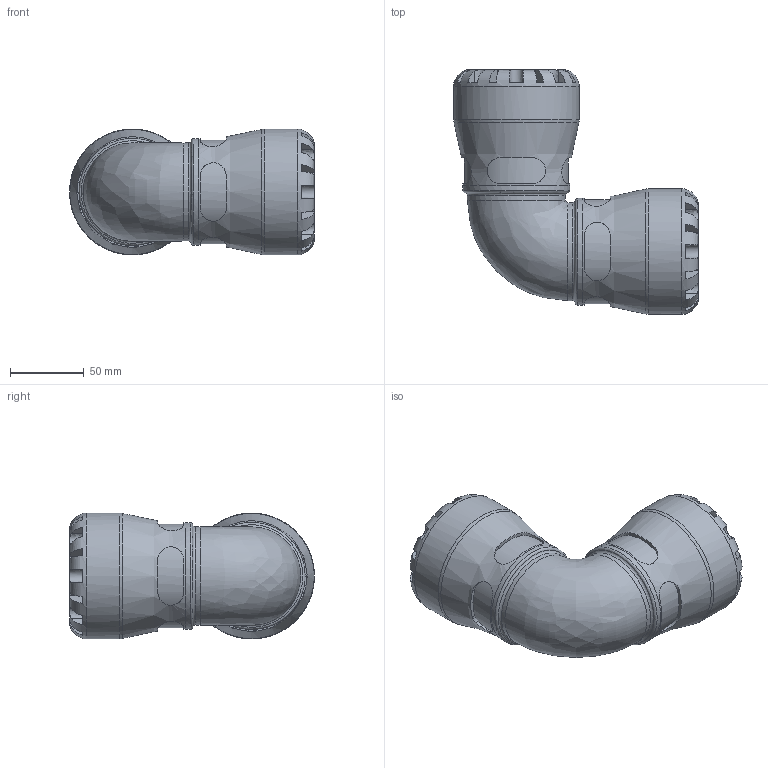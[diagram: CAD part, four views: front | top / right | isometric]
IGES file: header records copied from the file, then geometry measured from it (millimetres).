
Global section: file name: 150500050; native system: Autodesk Inventor 2019; preprocessor: unknown; author: KIM; date: 20231017.193511; units: millimetre
Bounding box: 165.5 x 165.5 x 85 mm (x, y, z)
Volume: 614224.8 mm3; surface area: 102650.4 mm2
Topology: 1 solids, 1 shells, 196 faces, 521 edges, 335 vertices
Faces by surface type: bspline 196
